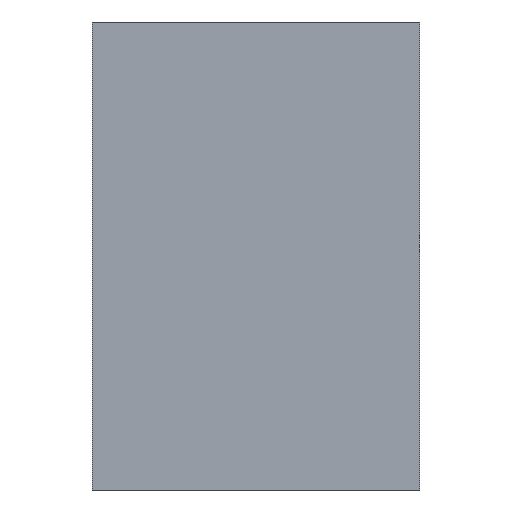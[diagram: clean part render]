
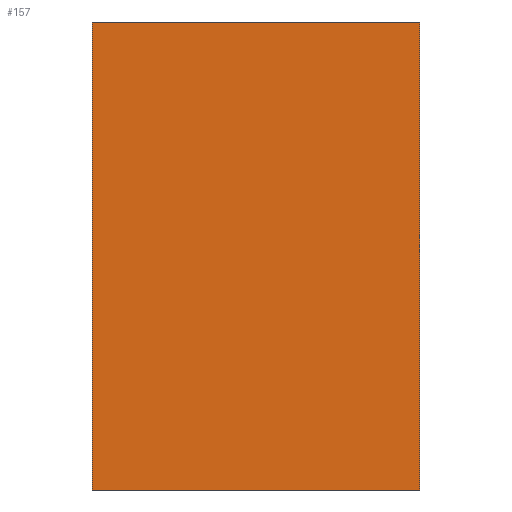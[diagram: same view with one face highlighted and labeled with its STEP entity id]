
A CAD part, front view. The second image highlights one B-rep face of the part: STEP entity #157.
In plain terms, the highlighted planar face has unit normal (0, -1, 0).
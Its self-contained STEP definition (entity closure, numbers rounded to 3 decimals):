
#6 = EDGE_CURVE ( 'NONE', #243, #110, #45, .T. ) ;
#14 = PLANE ( 'NONE',  #266 ) ;
#45 = LINE ( 'NONE', #256, #130 ) ;
#72 = DIRECTION ( 'NONE',  ( -1., 0., 0. ) ) ;
#81 = VECTOR ( 'NONE', #72, 1000. ) ;
#91 = CARTESIAN_POINT ( 'NONE',  ( -35., 0., -50. ) ) ;
#94 = ORIENTED_EDGE ( 'NONE', *, *, #170, .F. ) ;
#98 = CARTESIAN_POINT ( 'NONE',  ( 35., 0., -50. ) ) ;
#103 = VECTOR ( 'NONE', #177, 1000. ) ;
#104 = CARTESIAN_POINT ( 'NONE',  ( 35., 0., 50. ) ) ;
#108 = VECTOR ( 'NONE', #231, 1000. ) ;
#110 = VERTEX_POINT ( 'NONE', #165 ) ;
#126 = LINE ( 'NONE', #152, #108 ) ;
#130 = VECTOR ( 'NONE', #162, 1000. ) ;
#145 = EDGE_CURVE ( 'NONE', #172, #243, #303, .T. ) ;
#152 = CARTESIAN_POINT ( 'NONE',  ( -35., 0., 50. ) ) ;
#157 = ADVANCED_FACE ( 'NONE', ( #192 ), #14, .T. ) ;
#162 = DIRECTION ( 'NONE',  ( 0., 0., 1. ) ) ;
#165 = CARTESIAN_POINT ( 'NONE',  ( -35., 0., 50. ) ) ;
#170 = EDGE_CURVE ( 'NONE', #189, #172, #233, .T. ) ;
#172 = VERTEX_POINT ( 'NONE', #98 ) ;
#175 = DIRECTION ( 'NONE',  ( 0., -1., 0. ) ) ;
#177 = DIRECTION ( 'NONE',  ( 0., 0., -1. ) ) ;
#189 = VERTEX_POINT ( 'NONE', #283 ) ;
#192 = FACE_OUTER_BOUND ( 'NONE', #214, .T. ) ;
#194 = ORIENTED_EDGE ( 'NONE', *, *, #279, .F. ) ;
#209 = CARTESIAN_POINT ( 'NONE',  ( -35., 0., -50. ) ) ;
#214 = EDGE_LOOP ( 'NONE', ( #94, #194, #295, #217 ) ) ;
#217 = ORIENTED_EDGE ( 'NONE', *, *, #145, .F. ) ;
#231 = DIRECTION ( 'NONE',  ( 1., 0., 0. ) ) ;
#233 = LINE ( 'NONE', #104, #103 ) ;
#243 = VERTEX_POINT ( 'NONE', #209 ) ;
#256 = CARTESIAN_POINT ( 'NONE',  ( -35., 0., 50. ) ) ;
#266 = AXIS2_PLACEMENT_3D ( 'NONE', #296, #175, #281 ) ;
#279 = EDGE_CURVE ( 'NONE', #110, #189, #126, .T. ) ;
#281 = DIRECTION ( 'NONE',  ( 0., 0., -1. ) ) ;
#283 = CARTESIAN_POINT ( 'NONE',  ( 35., 0., 50. ) ) ;
#295 = ORIENTED_EDGE ( 'NONE', *, *, #6, .F. ) ;
#296 = CARTESIAN_POINT ( 'NONE',  ( 0., 0., 0. ) ) ;
#303 = LINE ( 'NONE', #91, #81 ) ;
